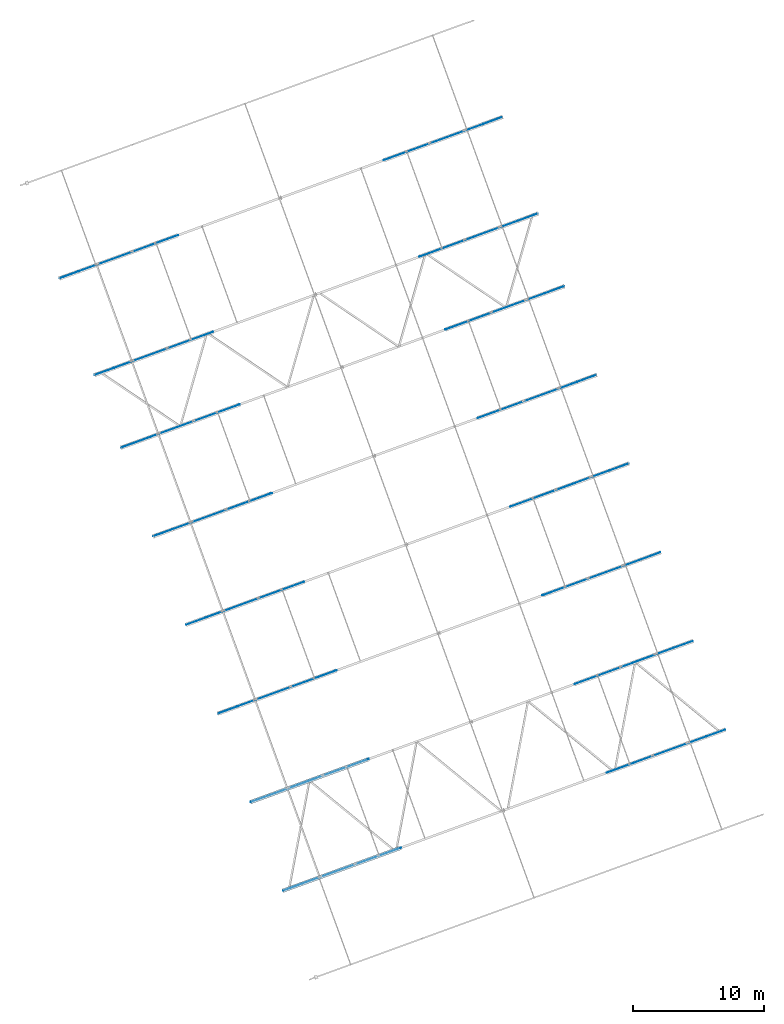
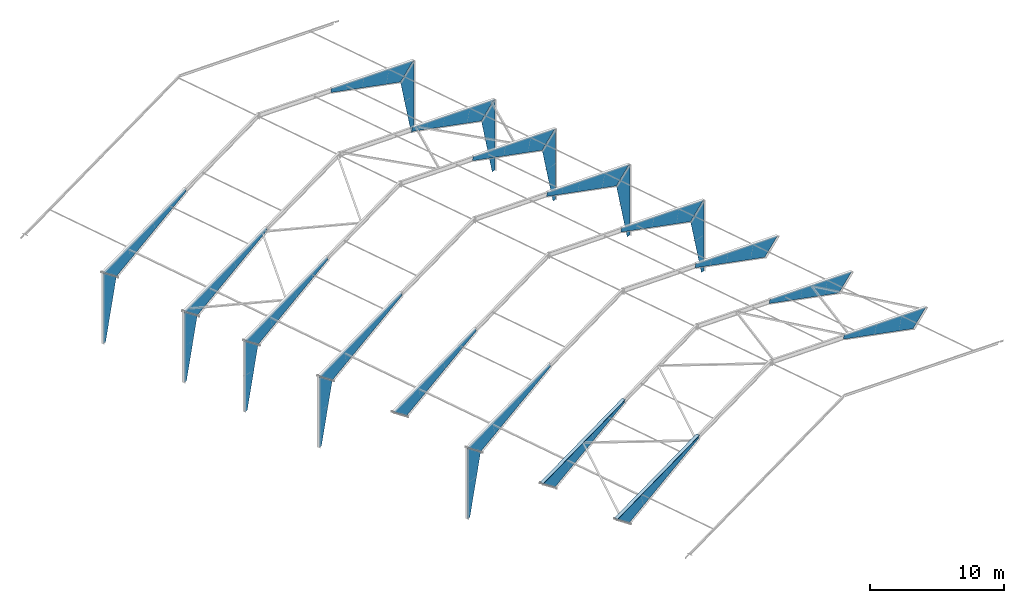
# One storey, part 9 of 17: 28 plates, 28 elements without a shape of their own.
"""IFC4 building model written with IfcOpenShell, lengths in millimetres."""

from ifc_helpers import new_model, si_unit, direction, frame, origin_with_axes, place, context, subcontext, project, spatial, line, indexed_curve, outline, extrude, polygons, material, element, aggregate, save


model = new_model("IFC4")

# Units and contexts
model_context = context("Model", 3, precision=0.2, world=frame((203566.813, 116264.779, 0.0), z_axis=(0.0, 0.0, 1.0), x_axis=(1.0, 0.0, 0.0)), true_north=direction((-0.9396138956, -0.3422363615)))
body_context = subcontext(model_context, "Body", "Model", "MODEL_VIEW")
ifc_project = project(units=[si_unit("LENGTHUNIT", "METRE", prefix="MILLI"), si_unit("AREAUNIT", "SQUARE_METRE"), si_unit("VOLUMEUNIT", "CUBIC_METRE"), si_unit("MASSUNIT", "GRAM", prefix="KILO"), si_unit("TIMEUNIT", "SECOND"), si_unit("PLANEANGLEUNIT", "RADIAN"), si_unit("SOLIDANGLEUNIT", "STERADIAN"), si_unit("THERMODYNAMICTEMPERATUREUNIT", "DEGREE_CELSIUS"), si_unit("LUMINOUSINTENSITYUNIT", "LUMEN")], contexts=[model_context])

# Site, building, storey
site_placement = place(None, origin_with_axes())
site = spatial("IfcSite", under=ifc_project, at=site_placement, Name="Nobelprojektet", CompositionType="ELEMENT")
building_placement = place(site_placement, origin_with_axes())
building = spatial("IfcBuilding", under=site, at=building_placement, Name="Hall B", CompositionType="ELEMENT")
storey_placement = place(building_placement, frame((0.0, 0.0, 136000.0), z_axis=(0.0, 0.0, 1.0), x_axis=(1.0, 0.0, 0.0)))
storey = spatial("IfcBuildingStorey", under=building, at=storey_placement, Name="Plan_2", CompositionType="ELEMENT", Elevation=136000.0)

# Assembly, plate
assembly_1_placement = place(storey_placement, frame((148049.78595, 119686.61144, 3682.47747), z_axis=(0.2431885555, 0.0885769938, -0.9659262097), x_axis=(0.9075966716, 0.3305755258, 0.2588206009)))
assembly_1 = element("IfcElementAssembly", 1, at=assembly_1_placement, inside=storey, Name="BEF. STOMME", PredefinedType="NOTDEFINED")
ifc_material = material(Name="S355J2", Category="STEEL")
plate_1_placement = place(assembly_1_placement, frame((9833.15093, 0.0, 0.0), z_axis=(-1.0, 0.0, 0.0), x_axis=(0.0, 0.0, 1.0)))
plate_1 = element("IfcPlate", 2, at=plate_1_placement, material=ifc_material, Name="BEF. STOMME", PredefinedType="NOTDEFINED", context=body_context, shape_type="Tessellation", body=[
    polygons([(-10.0, -149.99999, 9833.15093), (-10.0, 150.00001, 9833.15093), (-10.0, 150.0, 0.0), (-10.0, -150.0, 0.0), (10.0, 150.00001, 9833.15093), (10.0, 150.0, 0.0), (10.0, -149.99999, 9833.15093), (10.0, -150.0, 0.0)], [[[1, 2, 3, 4]], [[2, 5, 6, 3]], [[5, 7, 8, 6]], [[7, 1, 4, 8]], [[6, 8, 4, 3]], [[7, 5, 2, 1]]], closed=True),
])
aggregate(assembly_1, [plate_1])

assembly_2_placement = place(storey_placement, frame((149488.32092, 120210.57156, 2500.64856), z_axis=(-0.3422371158, 0.9396136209, 1.3e-09), x_axis=(-0.7455895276, -0.2715673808, 0.6085617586)))
assembly_2 = element("IfcElementAssembly", 3, at=assembly_2_placement, inside=storey, Name="BEF. STOMME", PredefinedType="NOTDEFINED")
plate_2_placement = place(assembly_2_placement, origin_with_axes())
plate_2 = element("IfcPlate", 4, at=plate_2_placement, material=ifc_material, Name="BEF. STOMME", PredefinedType="NOTDEFINED", context=body_context, shape_type="SolidModel", body=[
    extrude(outline(indexed_curve([(0.0, 0.0), (1926.13097, 0.0), (-4062.12765, 7799.46463), (-4349.48082, 7578.85435)], segments=[line(1, 2, 3, 4, 1)])), frame((0.0, 0.0, 4.0), z_axis=(0.0, 0.0, 1.0), x_axis=(1.0, 0.0, 0.0)), (0.0, 0.0, -1.0), 8.0),
])
aggregate(assembly_2, [plate_2])

assembly_3_placement = place(storey_placement, frame((180347.44524, 131450.44427, 2500.64637), z_axis=(0.3422371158, -0.9396136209, 1.3e-09), x_axis=(0.7455895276, 0.2715673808, 0.6085617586)))
assembly_3 = element("IfcElementAssembly", 5, at=assembly_3_placement, inside=storey, Name="BEF. STOMME", PredefinedType="NOTDEFINED")
plate_3_placement = place(assembly_3_placement, origin_with_axes())
plate_3 = element("IfcPlate", 6, at=plate_3_placement, material=ifc_material, Name="BEF. STOMME", PredefinedType="NOTDEFINED", context=body_context, shape_type="SolidModel", body=[
    extrude(outline(indexed_curve([(0.0, 0.0), (1926.13097, 0.0), (-4062.12765, 7799.46463), (-4349.48082, 7578.85435)], segments=[line(1, 2, 3, 4, 1)])), frame((0.0, 0.0, 4.0), z_axis=(0.0, 0.0, 1.0), x_axis=(1.0, 0.0, 0.0)), (0.0, 0.0, -1.0), 8.0),
])
aggregate(assembly_3, [plate_3])

assembly_4_placement = place(storey_placement, frame((145585.67858, 126451.82901, 3682.47747), z_axis=(0.2431885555, 0.0885769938, -0.9659262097), x_axis=(0.9075966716, 0.3305755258, 0.2588206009)))
assembly_4 = element("IfcElementAssembly", 7, at=assembly_4_placement, inside=storey, Name="BEF. STOMME", PredefinedType="NOTDEFINED")
plate_4_placement = place(assembly_4_placement, frame((9833.15093, 0.0, 0.0), z_axis=(-1.0, 0.0, 0.0), x_axis=(0.0, 0.0, 1.0)))
plate_4 = element("IfcPlate", 8, at=plate_4_placement, material=ifc_material, Name="BEF. STOMME", PredefinedType="NOTDEFINED", context=body_context, shape_type="Tessellation", body=[
    polygons([(-10.0, -149.99999, 9833.15093), (-10.0, 150.00001, 9833.15093), (-10.0, 150.0, 0.0), (-10.0, -150.0, 0.0), (10.0, 150.00001, 9833.15093), (10.0, 150.0, 0.0), (10.0, -149.99999, 9833.15093), (10.0, -150.0, 0.0)], [[[1, 2, 3, 4]], [[2, 5, 6, 3]], [[5, 7, 8, 6]], [[7, 1, 4, 8]], [[6, 8, 4, 3]], [[7, 5, 2, 1]]], closed=True),
])
aggregate(assembly_4, [plate_4])

assembly_5_placement = place(storey_placement, frame((147024.21355, 126975.78912, 2500.64856), z_axis=(-0.3422371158, 0.9396136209, 1.3e-09), x_axis=(-0.7455895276, -0.2715673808, 0.6085617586)))
assembly_5 = element("IfcElementAssembly", 9, at=assembly_5_placement, inside=storey, Name="BEF. STOMME", PredefinedType="NOTDEFINED")
plate_5_placement = place(assembly_5_placement, origin_with_axes())
plate_5 = element("IfcPlate", 10, at=plate_5_placement, material=ifc_material, Name="BEF. STOMME", PredefinedType="NOTDEFINED", context=body_context, shape_type="SolidModel", body=[
    extrude(outline(indexed_curve([(0.0, 0.0), (1926.13097, 0.0), (-4062.12765, 7799.46463), (-4349.48082, 7578.85435)], segments=[line(1, 2, 3, 4, 1)])), frame((0.0, 0.0, 4.0), z_axis=(0.0, 0.0, 1.0), x_axis=(1.0, 0.0, 0.0)), (0.0, 0.0, -1.0), 8.0),
])
aggregate(assembly_5, [plate_5])

assembly_6_placement = place(storey_placement, frame((177883.33796, 138215.6626, 2500.64637), z_axis=(0.3422371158, -0.9396136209, 1.3e-09), x_axis=(0.7455895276, 0.2715673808, 0.6085617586)))
assembly_6 = element("IfcElementAssembly", 11, at=assembly_6_placement, inside=storey, Name="BEF. STOMME", PredefinedType="NOTDEFINED")
plate_6_placement = place(assembly_6_placement, origin_with_axes())
plate_6 = element("IfcPlate", 12, at=plate_6_placement, material=ifc_material, Name="BEF. STOMME", PredefinedType="NOTDEFINED", context=body_context, shape_type="SolidModel", body=[
    extrude(outline(indexed_curve([(0.0, 0.0), (1926.13097, 0.0), (-4062.12765, 7799.46463), (-4349.48082, 7578.85435)], segments=[line(1, 2, 3, 4, 1)])), frame((0.0, 0.0, 4.0), z_axis=(0.0, 0.0, 1.0), x_axis=(1.0, 0.0, 0.0)), (0.0, 0.0, -1.0), 8.0),
])
aggregate(assembly_6, [plate_6])

assembly_7_placement = place(storey_placement, frame((142095.99866, 140506.22571, 2500.64856), z_axis=(-0.3422371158, 0.9396136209, 1.3e-09), x_axis=(-0.7455895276, -0.2715673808, 0.6085617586)))
assembly_7 = element("IfcElementAssembly", 13, at=assembly_7_placement, inside=storey, Name="BEF. STOMME", PredefinedType="NOTDEFINED")
plate_7_placement = place(assembly_7_placement, origin_with_axes())
plate_7 = element("IfcPlate", 14, at=plate_7_placement, material=ifc_material, Name="BEF. STOMME", PredefinedType="NOTDEFINED", context=body_context, shape_type="SolidModel", body=[
    extrude(outline(indexed_curve([(0.0, 0.0), (1926.13097, 0.0), (-4062.12765, 7799.46463), (-4349.48082, 7578.85435)], segments=[line(1, 2, 3, 4, 1)])), frame((0.0, 0.0, 4.0), z_axis=(0.0, 0.0, 1.0), x_axis=(1.0, 0.0, 0.0)), (0.0, 0.0, -1.0), 8.0),
])
aggregate(assembly_7, [plate_7])

assembly_8_placement = place(storey_placement, frame((175419.23068, 144980.88092, 2500.64637), z_axis=(0.3422371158, -0.9396136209, 1.3e-09), x_axis=(0.7455895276, 0.2715673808, 0.6085617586)))
assembly_8 = element("IfcElementAssembly", 15, at=assembly_8_placement, inside=storey, Name="BEF. STOMME", PredefinedType="NOTDEFINED")
plate_8_placement = place(assembly_8_placement, origin_with_axes())
plate_8 = element("IfcPlate", 16, at=plate_8_placement, material=ifc_material, Name="BEF. STOMME", PredefinedType="NOTDEFINED", context=body_context, shape_type="SolidModel", body=[
    extrude(outline(indexed_curve([(0.0, 0.0), (1926.13097, 0.0), (-4062.12765, 7799.46463), (-4349.48082, 7578.85435)], segments=[line(1, 2, 3, 4, 1)])), frame((0.0, 0.0, 4.0), z_axis=(0.0, 0.0, 1.0), x_axis=(1.0, 0.0, 0.0)), (0.0, 0.0, -1.0), 8.0),
])
aggregate(assembly_8, [plate_8])

assembly_9_placement = place(storey_placement, frame((143091.65304, 133206.14981, -2800.00041), z_axis=(0.3422371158, -0.9396136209, 1.3e-09), x_axis=(0.9396136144, 0.3422371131, 0.000118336)))
assembly_9 = element("IfcElementAssembly", 17, at=assembly_9_placement, inside=storey, Name="BEF. STOMME", PredefinedType="NOTDEFINED")
plate_9_placement = place(assembly_9_placement, origin_with_axes())
plate_9 = element("IfcPlate", 18, at=plate_9_placement, material=ifc_material, Name="BEF. STOMME", PredefinedType="NOTDEFINED", context=body_context, shape_type="SolidModel", body=[
    extrude(outline(indexed_curve([(0.0, 0.0), (294.31153, 0.0), (1536.28957, 5258.44015), (0.76173, 6436.97017)], segments=[line(1, 2, 3, 4, 1)])), frame((0.0, 0.0, 4.0), z_axis=(0.0, 0.0, 1.0), x_axis=(1.0, 0.0, 0.0)), (0.0, 0.0, -1.0), 8.0),
])
aggregate(assembly_9, [plate_9])

assembly_10_placement = place(storey_placement, frame((144561.04227, 133741.34802, 2500.64856), z_axis=(-0.3422371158, 0.9396136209, 1.3e-09), x_axis=(-0.7455895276, -0.2715673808, 0.6085617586)))
assembly_10 = element("IfcElementAssembly", 19, at=assembly_10_placement, inside=storey, Name="BEF. STOMME", PredefinedType="NOTDEFINED")
plate_10_placement = place(assembly_10_placement, origin_with_axes())
plate_10 = element("IfcPlate", 20, at=plate_10_placement, material=ifc_material, Name="BEF. STOMME", PredefinedType="NOTDEFINED", context=body_context, shape_type="SolidModel", body=[
    extrude(outline(indexed_curve([(0.0, 0.0), (1926.13097, 0.0), (-4062.12765, 7799.46463), (-4349.48082, 7578.85435)], segments=[line(1, 2, 3, 4, 1)])), frame((0.0, 0.0, 4.0), z_axis=(0.0, 0.0, 1.0), x_axis=(1.0, 0.0, 0.0)), (0.0, 0.0, -1.0), 8.0),
])
aggregate(assembly_10, [plate_10])

assembly_11_placement = place(storey_placement, frame((138162.5022, 146736.24557, -2800.00041), z_axis=(0.3422371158, -0.9396136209, 1.3e-09), x_axis=(0.9396136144, 0.3422371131, 0.000118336)))
assembly_11 = element("IfcElementAssembly", 21, at=assembly_11_placement, inside=storey, Name="BEF. STOMME", PredefinedType="NOTDEFINED")
plate_11_placement = place(assembly_11_placement, origin_with_axes())
plate_11 = element("IfcPlate", 22, at=plate_11_placement, material=ifc_material, Name="BEF. STOMME", PredefinedType="NOTDEFINED", context=body_context, shape_type="SolidModel", body=[
    extrude(outline(indexed_curve([(0.0, 0.0), (294.31153, 0.0), (1536.28957, 5258.44015), (0.76173, 6436.97017)], segments=[line(1, 2, 3, 4, 1)])), frame((0.0, 0.0, 4.0), z_axis=(0.0, 0.0, 1.0), x_axis=(1.0, 0.0, 0.0)), (0.0, 0.0, -1.0), 8.0),
])
aggregate(assembly_11, [plate_11])

assembly_12_placement = place(storey_placement, frame((139631.89143, 147271.44378, 2500.64856), z_axis=(-0.3422371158, 0.9396136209, 1.3e-09), x_axis=(-0.7455895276, -0.2715673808, 0.6085617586)))
assembly_12 = element("IfcElementAssembly", 23, at=assembly_12_placement, inside=storey, Name="BEF. STOMME", PredefinedType="NOTDEFINED")
plate_12_placement = place(assembly_12_placement, origin_with_axes())
plate_12 = element("IfcPlate", 24, at=plate_12_placement, material=ifc_material, Name="BEF. STOMME", PredefinedType="NOTDEFINED", context=body_context, shape_type="SolidModel", body=[
    extrude(outline(indexed_curve([(0.0, 0.0), (1926.13097, 0.0), (-4062.12765, 7799.46463), (-4349.48082, 7578.85435)], segments=[line(1, 2, 3, 4, 1)])), frame((0.0, 0.0, 4.0), z_axis=(0.0, 0.0, 1.0), x_axis=(1.0, 0.0, 0.0)), (0.0, 0.0, -1.0), 8.0),
])
aggregate(assembly_12, [plate_12])

assembly_13_placement = place(storey_placement, frame((135698.39496, 153501.46364, -2800.00041), z_axis=(0.3422371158, -0.9396136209, 1.3e-09), x_axis=(0.9396136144, 0.3422371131, 0.000118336)))
assembly_13 = element("IfcElementAssembly", 25, at=assembly_13_placement, inside=storey, Name="BEF. STOMME", PredefinedType="NOTDEFINED")
plate_13_placement = place(assembly_13_placement, origin_with_axes())
plate_13 = element("IfcPlate", 26, at=plate_13_placement, material=ifc_material, Name="BEF. STOMME", PredefinedType="NOTDEFINED", context=body_context, shape_type="SolidModel", body=[
    extrude(outline(indexed_curve([(0.0, 0.0), (294.31153, 0.0), (1536.28957, 5258.44015), (0.76173, 6436.97017)], segments=[line(1, 2, 3, 4, 1)])), frame((0.0, 0.0, 4.0), z_axis=(0.0, 0.0, 1.0), x_axis=(1.0, 0.0, 0.0)), (0.0, 0.0, -1.0), 8.0),
])
aggregate(assembly_13, [plate_13])

assembly_14_placement = place(storey_placement, frame((137167.78419, 154036.66185, 2500.64856), z_axis=(-0.3422371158, 0.9396136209, 1.3e-09), x_axis=(-0.7455895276, -0.2715673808, 0.6085617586)))
assembly_14 = element("IfcElementAssembly", 27, at=assembly_14_placement, inside=storey, Name="BEF. STOMME", PredefinedType="NOTDEFINED")
plate_14_placement = place(assembly_14_placement, origin_with_axes())
plate_14 = element("IfcPlate", 28, at=plate_14_placement, material=ifc_material, Name="BEF. STOMME", PredefinedType="NOTDEFINED", context=body_context, shape_type="SolidModel", body=[
    extrude(outline(indexed_curve([(0.0, 0.0), (1926.13097, 0.0), (-4062.12765, 7799.46463), (-4349.48082, 7578.85435)], segments=[line(1, 2, 3, 4, 1)])), frame((0.0, 0.0, 4.0), z_axis=(0.0, 0.0, 1.0), x_axis=(1.0, 0.0, 0.0)), (0.0, 0.0, -1.0), 8.0),
])
aggregate(assembly_14, [plate_14])

assembly_15_placement = place(storey_placement, frame((133679.19598, 159045.184, -2800.00041), z_axis=(0.3422371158, -0.9396136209, 1.3e-09), x_axis=(0.9396136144, 0.3422371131, 0.000118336)))
assembly_15 = element("IfcElementAssembly", 29, at=assembly_15_placement, inside=storey, Name="BEF. STOMME", PredefinedType="NOTDEFINED")
plate_15_placement = place(assembly_15_placement, origin_with_axes())
plate_15 = element("IfcPlate", 30, at=plate_15_placement, material=ifc_material, Name="BEF. STOMME", PredefinedType="NOTDEFINED", context=body_context, shape_type="SolidModel", body=[
    extrude(outline(indexed_curve([(0.0, 0.0), (294.31153, 0.0), (1536.28957, 5258.44015), (0.76173, 6436.97017)], segments=[line(1, 2, 3, 4, 1)])), frame((0.0, 0.0, 4.0), z_axis=(0.0, 0.0, 1.0), x_axis=(1.0, 0.0, 0.0)), (0.0, 0.0, -1.0), 8.0),
])
aggregate(assembly_15, [plate_15])

assembly_16_placement = place(storey_placement, frame((135148.5852, 159580.38222, 2500.64856), z_axis=(-0.3422371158, 0.9396136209, 1.3e-09), x_axis=(-0.7455895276, -0.2715673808, 0.6085617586)))
assembly_16 = element("IfcElementAssembly", 31, at=assembly_16_placement, inside=storey, Name="BEF. STOMME", PredefinedType="NOTDEFINED")
plate_16_placement = place(assembly_16_placement, origin_with_axes())
plate_16 = element("IfcPlate", 32, at=plate_16_placement, material=ifc_material, Name="BEF. STOMME", PredefinedType="NOTDEFINED", context=body_context, shape_type="SolidModel", body=[
    extrude(outline(indexed_curve([(0.0, 0.0), (1926.13097, 0.0), (-4062.12765, 7799.46463), (-4349.48082, 7578.85435)], segments=[line(1, 2, 3, 4, 1)])), frame((0.0, 0.0, 4.0), z_axis=(0.0, 0.0, 1.0), x_axis=(1.0, 0.0, 0.0)), (0.0, 0.0, -1.0), 8.0),
])
aggregate(assembly_16, [plate_16])

assembly_17_placement = place(storey_placement, frame((130992.63462, 166421.15093, -2800.00041), z_axis=(0.3422371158, -0.9396136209, 1.3e-09), x_axis=(0.9396136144, 0.3422371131, 0.000118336)))
assembly_17 = element("IfcElementAssembly", 33, at=assembly_17_placement, inside=storey, Name="BEF. STOMME", PredefinedType="NOTDEFINED")
plate_17_placement = place(assembly_17_placement, origin_with_axes())
plate_17 = element("IfcPlate", 34, at=plate_17_placement, material=ifc_material, Name="BEF. STOMME", PredefinedType="NOTDEFINED", context=body_context, shape_type="SolidModel", body=[
    extrude(outline(indexed_curve([(0.0, 0.0), (294.31153, 0.0), (1536.28957, 5258.44015), (0.76173, 6436.97017)], segments=[line(1, 2, 3, 4, 1)])), frame((0.0, 0.0, 4.0), z_axis=(0.0, 0.0, 1.0), x_axis=(1.0, 0.0, 0.0)), (0.0, 0.0, -1.0), 8.0),
])
aggregate(assembly_17, [plate_17])

assembly_18_placement = place(storey_placement, frame((132462.02384, 166956.34914, 2500.64856), z_axis=(-0.3422371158, 0.9396136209, 1.3e-09), x_axis=(-0.7455895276, -0.2715673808, 0.6085617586)))
assembly_18 = element("IfcElementAssembly", 35, at=assembly_18_placement, inside=storey, Name="BEF. STOMME", PredefinedType="NOTDEFINED")
plate_18_placement = place(assembly_18_placement, origin_with_axes())
plate_18 = element("IfcPlate", 36, at=plate_18_placement, material=ifc_material, Name="BEF. STOMME", PredefinedType="NOTDEFINED", context=body_context, shape_type="SolidModel", body=[
    extrude(outline(indexed_curve([(0.0, 0.0), (1926.13097, 0.0), (-4062.12765, 7799.46463), (-4349.48082, 7578.85435)], segments=[line(1, 2, 3, 4, 1)])), frame((0.0, 0.0, 4.0), z_axis=(0.0, 0.0, 1.0), x_axis=(1.0, 0.0, 0.0)), (0.0, 0.0, -1.0), 8.0),
])
aggregate(assembly_18, [plate_18])

assembly_19_placement = place(storey_placement, frame((174424.51267, 152281.2972, -2800.0026), z_axis=(-0.3422371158, 0.9396136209, 1.3e-09), x_axis=(-0.9396136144, -0.3422371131, 0.000118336)))
assembly_19 = element("IfcElementAssembly", 37, at=assembly_19_placement, inside=storey, Name="BEF. STOMME", PredefinedType="NOTDEFINED")
plate_19_placement = place(assembly_19_placement, origin_with_axes())
plate_19 = element("IfcPlate", 38, at=plate_19_placement, material=ifc_material, Name="BEF. STOMME", PredefinedType="NOTDEFINED", context=body_context, shape_type="SolidModel", body=[
    extrude(outline(indexed_curve([(0.0, 0.0), (294.31153, 0.0), (1536.28957, 5258.44015), (0.76173, 6436.97017)], segments=[line(1, 2, 3, 4, 1)])), frame((0.0, 0.0, 4.0), z_axis=(0.0, 0.0, 1.0), x_axis=(1.0, 0.0, 0.0)), (0.0, 0.0, -1.0), 8.0),
])
aggregate(assembly_19, [plate_19])

assembly_20_placement = place(storey_placement, frame((172955.12344, 151746.09899, 2500.64637), z_axis=(0.3422371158, -0.9396136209, 1.3e-09), x_axis=(0.7455895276, 0.2715673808, 0.6085617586)))
assembly_20 = element("IfcElementAssembly", 39, at=assembly_20_placement, inside=storey, Name="BEF. STOMME", PredefinedType="NOTDEFINED")
plate_20_placement = place(assembly_20_placement, origin_with_axes())
plate_20 = element("IfcPlate", 40, at=plate_20_placement, material=ifc_material, Name="BEF. STOMME", PredefinedType="NOTDEFINED", context=body_context, shape_type="SolidModel", body=[
    extrude(outline(indexed_curve([(0.0, 0.0), (1926.13097, 0.0), (-4062.12765, 7799.46463), (-4349.48082, 7578.85435)], segments=[line(1, 2, 3, 4, 1)])), frame((0.0, 0.0, 4.0), z_axis=(0.0, 0.0, 1.0), x_axis=(1.0, 0.0, 0.0)), (0.0, 0.0, -1.0), 8.0),
])
aggregate(assembly_20, [plate_20])

assembly_21_placement = place(storey_placement, frame((171960.40543, 159046.51527, -2800.0026), z_axis=(-0.3422371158, 0.9396136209, 1.3e-09), x_axis=(-0.9396136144, -0.3422371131, 0.000118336)))
assembly_21 = element("IfcElementAssembly", 41, at=assembly_21_placement, inside=storey, Name="BEF. STOMME", PredefinedType="NOTDEFINED")
plate_21_placement = place(assembly_21_placement, origin_with_axes())
plate_21 = element("IfcPlate", 42, at=plate_21_placement, material=ifc_material, Name="BEF. STOMME", PredefinedType="NOTDEFINED", context=body_context, shape_type="SolidModel", body=[
    extrude(outline(indexed_curve([(0.0, 0.0), (294.31153, 0.0), (1536.28957, 5258.44015), (0.76173, 6436.97017)], segments=[line(1, 2, 3, 4, 1)])), frame((0.0, 0.0, 4.0), z_axis=(0.0, 0.0, 1.0), x_axis=(1.0, 0.0, 0.0)), (0.0, 0.0, -1.0), 8.0),
])
aggregate(assembly_21, [plate_21])

assembly_22_placement = place(storey_placement, frame((170491.01621, 158511.31706, 2500.64637), z_axis=(0.3422371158, -0.9396136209, 1.3e-09), x_axis=(0.7455895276, 0.2715673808, 0.6085617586)))
assembly_22 = element("IfcElementAssembly", 43, at=assembly_22_placement, inside=storey, Name="BEF. STOMME", PredefinedType="NOTDEFINED")
plate_22_placement = place(assembly_22_placement, origin_with_axes())
plate_22 = element("IfcPlate", 44, at=plate_22_placement, material=ifc_material, Name="BEF. STOMME", PredefinedType="NOTDEFINED", context=body_context, shape_type="SolidModel", body=[
    extrude(outline(indexed_curve([(0.0, 0.0), (1926.13097, 0.0), (-4062.12765, 7799.46463), (-4349.48082, 7578.85435)], segments=[line(1, 2, 3, 4, 1)])), frame((0.0, 0.0, 4.0), z_axis=(0.0, 0.0, 1.0), x_axis=(1.0, 0.0, 0.0)), (0.0, 0.0, -1.0), 8.0),
])
aggregate(assembly_22, [plate_22])

assembly_23_placement = place(storey_placement, frame((169496.2982, 165811.73334, -2800.0026), z_axis=(-0.3422371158, 0.9396136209, 1.3e-09), x_axis=(-0.9396136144, -0.3422371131, 0.000118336)))
assembly_23 = element("IfcElementAssembly", 45, at=assembly_23_placement, inside=storey, Name="BEF. STOMME", PredefinedType="NOTDEFINED")
plate_23_placement = place(assembly_23_placement, origin_with_axes())
plate_23 = element("IfcPlate", 46, at=plate_23_placement, material=ifc_material, Name="BEF. STOMME", PredefinedType="NOTDEFINED", context=body_context, shape_type="SolidModel", body=[
    extrude(outline(indexed_curve([(0.0, 0.0), (294.31153, 0.0), (1536.28957, 5258.44015), (0.76173, 6436.97017)], segments=[line(1, 2, 3, 4, 1)])), frame((0.0, 0.0, 4.0), z_axis=(0.0, 0.0, 1.0), x_axis=(1.0, 0.0, 0.0)), (0.0, 0.0, -1.0), 8.0),
])
aggregate(assembly_23, [plate_23])

assembly_24_placement = place(storey_placement, frame((168026.90897, 165276.53513, 2500.64637), z_axis=(0.3422371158, -0.9396136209, 1.3e-09), x_axis=(0.7455895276, 0.2715673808, 0.6085617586)))
assembly_24 = element("IfcElementAssembly", 47, at=assembly_24_placement, inside=storey, Name="BEF. STOMME", PredefinedType="NOTDEFINED")
plate_24_placement = place(assembly_24_placement, origin_with_axes())
plate_24 = element("IfcPlate", 48, at=plate_24_placement, material=ifc_material, Name="BEF. STOMME", PredefinedType="NOTDEFINED", context=body_context, shape_type="SolidModel", body=[
    extrude(outline(indexed_curve([(0.0, 0.0), (1926.13097, 0.0), (-4062.12765, 7799.46463), (-4349.48082, 7578.85435)], segments=[line(1, 2, 3, 4, 1)])), frame((0.0, 0.0, 4.0), z_axis=(0.0, 0.0, 1.0), x_axis=(1.0, 0.0, 0.0)), (0.0, 0.0, -1.0), 8.0),
])
aggregate(assembly_24, [plate_24])

assembly_25_placement = place(storey_placement, frame((167477.09921, 171355.45371, -2800.0026), z_axis=(-0.3422371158, 0.9396136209, 1.3e-09), x_axis=(-0.9396136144, -0.3422371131, 0.000118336)))
assembly_25 = element("IfcElementAssembly", 49, at=assembly_25_placement, inside=storey, Name="BEF. STOMME", PredefinedType="NOTDEFINED")
plate_25_placement = place(assembly_25_placement, origin_with_axes())
plate_25 = element("IfcPlate", 50, at=plate_25_placement, material=ifc_material, Name="BEF. STOMME", PredefinedType="NOTDEFINED", context=body_context, shape_type="SolidModel", body=[
    extrude(outline(indexed_curve([(0.0, 0.0), (294.31153, 0.0), (1536.28957, 5258.44015), (0.76173, 6436.97017)], segments=[line(1, 2, 3, 4, 1)])), frame((0.0, 0.0, 4.0), z_axis=(0.0, 0.0, 1.0), x_axis=(1.0, 0.0, 0.0)), (0.0, 0.0, -1.0), 8.0),
])
aggregate(assembly_25, [plate_25])

assembly_26_placement = place(storey_placement, frame((166007.70999, 170820.25549, 2500.64637), z_axis=(0.3422371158, -0.9396136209, 1.3e-09), x_axis=(0.7455895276, 0.2715673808, 0.6085617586)))
assembly_26 = element("IfcElementAssembly", 51, at=assembly_26_placement, inside=storey, Name="BEF. STOMME", PredefinedType="NOTDEFINED")
plate_26_placement = place(assembly_26_placement, origin_with_axes())
plate_26 = element("IfcPlate", 52, at=plate_26_placement, material=ifc_material, Name="BEF. STOMME", PredefinedType="NOTDEFINED", context=body_context, shape_type="SolidModel", body=[
    extrude(outline(indexed_curve([(0.0, 0.0), (1926.13097, 0.0), (-4062.12765, 7799.46463), (-4349.48082, 7578.85435)], segments=[line(1, 2, 3, 4, 1)])), frame((0.0, 0.0, 4.0), z_axis=(0.0, 0.0, 1.0), x_axis=(1.0, 0.0, 0.0)), (0.0, 0.0, -1.0), 8.0),
])
aggregate(assembly_26, [plate_26])

assembly_27_placement = place(storey_placement, frame((164790.53785, 178731.42063, -2800.0026), z_axis=(-0.3422371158, 0.9396136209, 1.3e-09), x_axis=(-0.9396136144, -0.3422371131, 0.000118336)))
assembly_27 = element("IfcElementAssembly", 53, at=assembly_27_placement, inside=storey, Name="BEF. STOMME", PredefinedType="NOTDEFINED")
plate_27_placement = place(assembly_27_placement, origin_with_axes())
plate_27 = element("IfcPlate", 54, at=plate_27_placement, material=ifc_material, Name="BEF. STOMME", PredefinedType="NOTDEFINED", context=body_context, shape_type="SolidModel", body=[
    extrude(outline(indexed_curve([(0.0, 0.0), (294.31153, 0.0), (1536.28957, 5258.44015), (0.76173, 6436.97017)], segments=[line(1, 2, 3, 4, 1)])), frame((0.0, 0.0, 4.0), z_axis=(0.0, 0.0, 1.0), x_axis=(1.0, 0.0, 0.0)), (0.0, 0.0, -1.0), 8.0),
])
aggregate(assembly_27, [plate_27])

assembly_28_placement = place(storey_placement, frame((163321.14863, 178196.22242, 2500.64637), z_axis=(0.3422371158, -0.9396136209, 1.3e-09), x_axis=(0.7455895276, 0.2715673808, 0.6085617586)))
assembly_28 = element("IfcElementAssembly", 55, at=assembly_28_placement, inside=storey, Name="BEF. STOMME", PredefinedType="NOTDEFINED")
plate_28_placement = place(assembly_28_placement, origin_with_axes())
plate_28 = element("IfcPlate", 56, at=plate_28_placement, material=ifc_material, Name="BEF. STOMME", PredefinedType="NOTDEFINED", context=body_context, shape_type="SolidModel", body=[
    extrude(outline(indexed_curve([(0.0, 0.0), (1926.13097, 0.0), (-4062.12765, 7799.46463), (-4349.48082, 7578.85435)], segments=[line(1, 2, 3, 4, 1)])), frame((0.0, 0.0, 4.0), z_axis=(0.0, 0.0, 1.0), x_axis=(1.0, 0.0, 0.0)), (0.0, 0.0, -1.0), 8.0),
])
aggregate(assembly_28, [plate_28])

save(model, "model.ifc")
